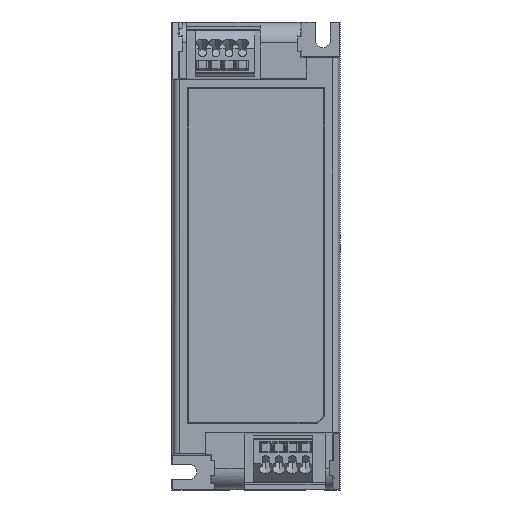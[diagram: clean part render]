
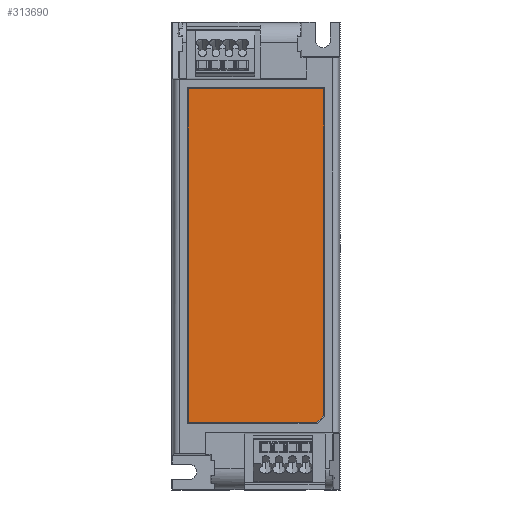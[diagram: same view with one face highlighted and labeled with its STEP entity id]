
A CAD part, top view. The second image highlights one B-rep face of the part: STEP entity #313690.
In plain terms, the highlighted planar face has unit normal (0, 0, 1) as drawn and (0, 1, 0) by its records, which use the part's own axes.
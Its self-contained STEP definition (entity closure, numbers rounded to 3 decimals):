
#312460=CARTESIAN_POINT('',(17.7,23.,-43.7));
#312470=VERTEX_POINT('',#312460);
#312500=CARTESIAN_POINT('',(-17.7,23.,-43.7));
#312510=DIRECTION('',(1.,0.,0.));
#312520=VECTOR('',#312510,1.);
#312530=LINE('',#312500,#312520);
#312540=CARTESIAN_POINT('',(-17.7,23.,-43.7));
#312550=VERTEX_POINT('',#312540);
#312560=EDGE_CURVE('',#312550,#312470,#312530,.T.);
#312730=CARTESIAN_POINT('',(17.7,23.,-43.7));
#312740=DIRECTION('',(0.,0.,1.));
#312750=VECTOR('',#312740,1.);
#312760=LINE('',#312730,#312750);
#312770=CARTESIAN_POINT('',(17.7,23.,41.876));
#312780=VERTEX_POINT('',#312770);
#312790=EDGE_CURVE('',#312470,#312780,#312760,.T.);
#312970=CARTESIAN_POINT('',(15.876,23.,43.7));
#312980=DIRECTION('',(0.707,0.,-0.707));
#312990=VECTOR('',#312980,1.);
#313000=LINE('',#312970,#312990);
#313010=CARTESIAN_POINT('',(15.876,23.,43.7));
#313020=VERTEX_POINT('',#313010);
#313030=EDGE_CURVE('',#313020,#312780,#313000,.T.);
#313250=CARTESIAN_POINT('',(-17.7,23.,43.7));
#313260=VERTEX_POINT('',#313250);
#313290=CARTESIAN_POINT('',(15.876,23.,43.7));
#313300=DIRECTION('',(-1.,0.,0.));
#313310=VECTOR('',#313300,1.);
#313320=LINE('',#313290,#313310);
#313330=EDGE_CURVE('',#313020,#313260,#313320,.T.);
#313480=CARTESIAN_POINT('',(-17.7,23.,-43.7));
#313490=DIRECTION('',(0.,0.,1.));
#313500=VECTOR('',#313490,1.);
#313510=LINE('',#313480,#313500);
#313520=EDGE_CURVE('',#312550,#313260,#313510,.T.);
#313570=CARTESIAN_POINT('',(21.399,23.,-52.599));
#313580=DIRECTION('',(0.,1.,0.));
#313590=DIRECTION('',(1.,0.,0.));
#313600=AXIS2_PLACEMENT_3D('',#313570,#313580,#313590);
#313610=PLANE('',#313600);
#313620=ORIENTED_EDGE('',*,*,#313520,.T.);
#313630=ORIENTED_EDGE('',*,*,#312560,.F.);
#313640=ORIENTED_EDGE('',*,*,#312790,.F.);
#313650=ORIENTED_EDGE('',*,*,#313030,.T.);
#313660=ORIENTED_EDGE('',*,*,#313330,.F.);
#313670=EDGE_LOOP('',(#313660,#313650,#313640,#313630,#313620));
#313680=FACE_OUTER_BOUND('',#313670,.T.);
#313690=ADVANCED_FACE('',(#313680),#313610,.T.);
